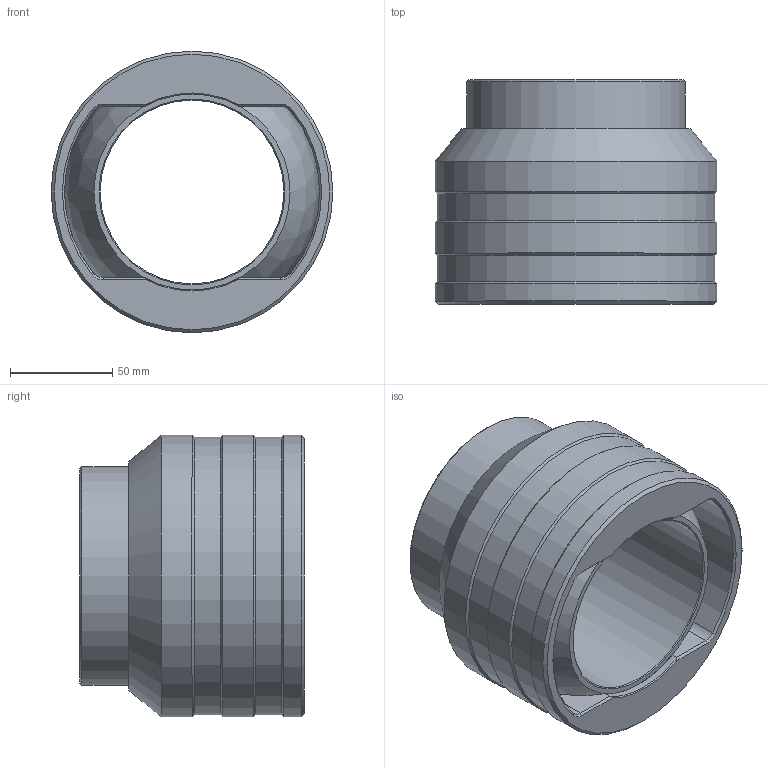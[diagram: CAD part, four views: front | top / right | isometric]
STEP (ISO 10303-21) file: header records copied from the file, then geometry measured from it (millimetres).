
FILE_DESCRIPTION(('STEP AP214'),'1');
FILE_NAME('C:/Projets/Serie 10.xx.xx/10.11.09.step','2011-11-10T15:40:53',(' '),(' '),'Spatial InterOp 3D',' ',' ');
FILE_SCHEMA(('automotive_design'));
Length unit declared in the file: metre
Products named in the file (3): rotule 09; boitier 09; 1
Bounding box: 138 x 110 x 138 mm (x, y, z)
Volume: 660616.4 mm3; surface area: 150610.2 mm2
Topology: 2 solids, 2 shells, 51 faces, 1102 edges, 2046 vertices
Faces by surface type: cone 18, cylinder 17, plane 14, sphere 2
Full cylindrical faces by diameter (mm): 90 x1, 96 x1, 100 x1, 107 x1, 136 x2, 138 x3
Entity records: 13682 total; most frequent: CARTESIAN_POINT 1260, DIRECTION 1243, STYLED_ITEM 1041, PRESENTATION_STYLE_ASSIGNMENT 1041, COLOUR_RGB 1041, LINE 1009, VECTOR 1009, TRIMMED_CURVE 990
